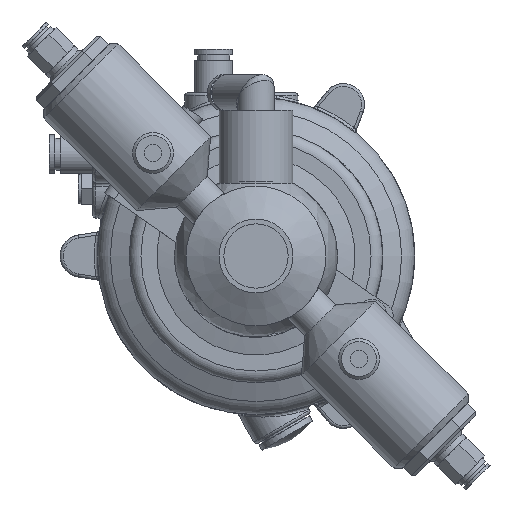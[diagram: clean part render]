
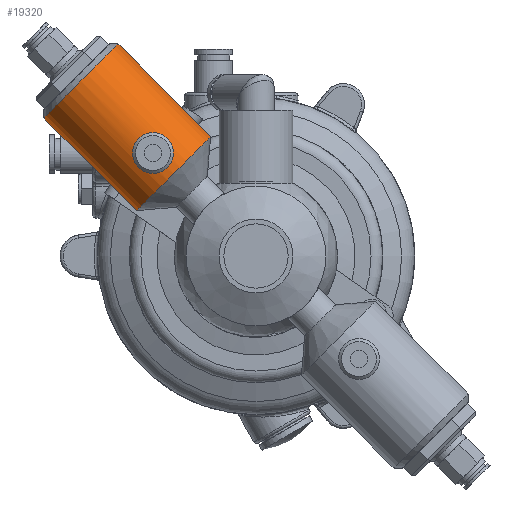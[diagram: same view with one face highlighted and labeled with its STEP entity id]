
A CAD part, front view. The second image highlights one B-rep face of the part: STEP entity #19320.
In plain terms, the highlighted cylindrical face has radius 18 mm (diameter 36 mm), a full revolution.
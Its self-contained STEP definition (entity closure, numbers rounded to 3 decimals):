
#44 = CARTESIAN_POINT ( 'NONE',  ( 39.402, -40.943, 37.346 ) ) ;
#335 = CARTESIAN_POINT ( 'NONE',  ( 31.086, -40.891, 33.904 ) ) ;
#639 = CARTESIAN_POINT ( 'NONE',  ( 37.607, -40.964, 39.263 ) ) ;
#955 = CARTESIAN_POINT ( 'NONE',  ( 35.943, -40.791, 39.826 ) ) ;
#2108 = CARTESIAN_POINT ( 'NONE',  ( 31.968, -41., 32.379 ) ) ;
#2381 = ORIENTED_EDGE ( 'NONE', *, *, #31214, .T. ) ;
#3013 = CARTESIAN_POINT ( 'NONE',  ( 60.104, -23., 60.104 ) ) ;
#4767 = CARTESIAN_POINT ( 'NONE',  ( 39.264, -40.465, 33.105 ) ) ;
#5079 = CARTESIAN_POINT ( 'NONE',  ( 33.109, -40.964, 31.445 ) ) ;
#5384 = CARTESIAN_POINT ( 'NONE',  ( 33.103, -40.465, 39.262 ) ) ;
#5540 = FACE_BOUND ( 'NONE', #57826, .T. ) ;
#5677 = CARTESIAN_POINT ( 'NONE',  ( 35.947, -40.641, 30.885 ) ) ;
#6795 = DIRECTION ( 'NONE',  ( 0.707, 0., -0.707 ) ) ;
#6831 = CARTESIAN_POINT ( 'NONE',  ( 37.61, -40.465, 31.45 ) ) ;
#9497 = CARTESIAN_POINT ( 'NONE',  ( 34.769, -40.642, 39.827 ) ) ;
#9804 = CARTESIAN_POINT ( 'NONE',  ( 39.404, -40.487, 33.369 ) ) ;
#10122 = CARTESIAN_POINT ( 'NONE',  ( 38.1, -40.436, 31.777 ) ) ;
#10421 = CARTESIAN_POINT ( 'NONE',  ( 33.368, -40.943, 31.307 ) ) ;
#11563 = CARTESIAN_POINT ( 'NONE',  ( 38.325, -41., 38.749 ) ) ;
#13589 = CARTESIAN_POINT ( 'NONE',  ( 30.855, -40.717, 35.355 ) ) ;
#14226 = CARTESIAN_POINT ( 'NONE',  ( 34.191, -40.572, 39.712 ) ) ;
#14537 = CARTESIAN_POINT ( 'NONE',  ( 37.351, -40.486, 31.311 ) ) ;
#14854 = CARTESIAN_POINT ( 'NONE',  ( 38.747, -41., 38.328 ) ) ;
#15158 = CARTESIAN_POINT ( 'NONE',  ( 34.772, -40.79, 30.884 ) ) ;
#15609 = FACE_OUTER_BOUND ( 'NONE', #61275, .T. ) ;
#16299 = CARTESIAN_POINT ( 'NONE',  ( 38.332, -40.428, 31.968 ) ) ;
#17180 = DIRECTION ( 'NONE',  ( -0.707, 0., -0.707 ) ) ;
#17477 = CARTESIAN_POINT ( 'NONE',  ( 72.832, -23., 47.376 ) ) ;
#18032 = EDGE_LOOP ( 'NONE', ( #55470 ) ) ;
#18961 = CARTESIAN_POINT ( 'NONE',  ( 31.084, -40.54, 36.802 ) ) ;
#19279 = CARTESIAN_POINT ( 'NONE',  ( 30.855, -40.754, 35.059 ) ) ;
#19320 = ADVANCED_FACE ( 'NONE', ( #29900, #15609, #5540 ), #24822, .T. ) ;
#19584 = CARTESIAN_POINT ( 'NONE',  ( 39.712, -40.572, 34.192 ) ) ;
#19885 = CARTESIAN_POINT ( 'NONE',  ( 39.826, -40.791, 35.945 ) ) ;
#21071 = CARTESIAN_POINT ( 'NONE',  ( 39.627, -40.891, 36.802 ) ) ;
#21770 = CARTESIAN_POINT ( 'NONE',  ( 15.556, -23., 41.012 ) ) ;
#21978 = DIRECTION ( 'NONE',  ( -0.707, 0., -0.707 ) ) ;
#22475 = CARTESIAN_POINT ( 'NONE',  ( 31.309, -40.487, 37.347 ) ) ;
#23745 = CARTESIAN_POINT ( 'NONE',  ( 30.884, -40.642, 35.943 ) ) ;
#24011 = B_SPLINE_CURVE_WITH_KNOTS ( 'NONE', 3,
 ( #13589, #33217, #23745, #62358, #18961, #22475, #41775, #32284, #51548, #27523, #33839, #5384, #34450, #43926, #14226, #9497, #29732, #24375, #955, #59673, #54888, #53720, #639, #57584, #11563, #14854, #30871, #24964, #44, #21071, #24668, #19885, #50146, #38280, #33528, #19584, #48390, #9804, #4767, #35630, #39193, #16299, #10122, #6831, #14537, #44246, #58491, #5677, #48683, #26112, #15158, #38595, #45423, #10421, #5079, #40352, #28811, #2108, #52793, #48074, #24061, #335, #43318, #34157, #19279, #48984 ),
 .UNSPECIFIED., .T., .F.,
 ( 4, 2, 2, 2, 2, 2, 2, 2, 2, 2, 2, 2, 2, 2, 2, 2, 2, 2, 2, 2, 2, 2, 2, 2, 2, 2, 2, 2, 2, 2, 2, 2, 4 ),
 ( 0., 0.001, 0.002, 0.003, 0.004, 0.004, 0.005, 0.006, 0.007, 0.008, 0.009, 0.01, 0.011, 0.011, 0.012, 0.013, 0.014, 0.015, 0.016, 0.017, 0.018, 0.019, 0.019, 0.02, 0.021, 0.022, 0.023, 0.024, 0.025, 0.026, 0.026, 0.027, 0.028 ),
 .UNSPECIFIED. ) ;
#24061 = CARTESIAN_POINT ( 'NONE',  ( 31.31, -40.944, 33.362 ) ) ;
#24375 = CARTESIAN_POINT ( 'NONE',  ( 35.646, -40.753, 39.855 ) ) ;
#24668 = CARTESIAN_POINT ( 'NONE',  ( 39.711, -40.86, 36.522 ) ) ;
#24822 = CYLINDRICAL_SURFACE ( 'NONE', #41494, 18. ) ;
#24964 = CARTESIAN_POINT ( 'NONE',  ( 39.26, -40.965, 37.611 ) ) ;
#25587 = AXIS2_PLACEMENT_3D ( 'NONE', #60548, #17180, #36492 ) ;
#26112 = CARTESIAN_POINT ( 'NONE',  ( 35.063, -40.754, 30.855 ) ) ;
#27523 = CARTESIAN_POINT ( 'NONE',  ( 32.381, -40.428, 38.745 ) ) ;
#27934 = CARTESIAN_POINT ( 'NONE',  ( 30.855, -40.717, 35.355 ) ) ;
#28811 = CARTESIAN_POINT ( 'NONE',  ( 32.384, -41., 31.963 ) ) ;
#29732 = CARTESIAN_POINT ( 'NONE',  ( 35.06, -40.679, 39.855 ) ) ;
#29900 = FACE_OUTER_BOUND ( 'NONE', #18032, .T. ) ;
#30871 = CARTESIAN_POINT ( 'NONE',  ( 38.933, -40.993, 38.1 ) ) ;
#31214 = EDGE_CURVE ( 'NONE', #60875, #60875, #48121, .T. ) ;
#32284 = CARTESIAN_POINT ( 'NONE',  ( 31.774, -40.436, 38.096 ) ) ;
#33217 = CARTESIAN_POINT ( 'NONE',  ( 30.855, -40.679, 35.651 ) ) ;
#33528 = CARTESIAN_POINT ( 'NONE',  ( 39.827, -40.642, 34.773 ) ) ;
#33839 = CARTESIAN_POINT ( 'NONE',  ( 32.609, -40.436, 38.932 ) ) ;
#34157 = CARTESIAN_POINT ( 'NONE',  ( 30.884, -40.791, 34.767 ) ) ;
#34450 = CARTESIAN_POINT ( 'NONE',  ( 33.365, -40.487, 39.402 ) ) ;
#34665 = CIRCLE ( 'NONE', #25587, 18. ) ;
#34918 = DIRECTION ( 'NONE',  ( -0.707, 0., -0.707 ) ) ;
#35630 = CARTESIAN_POINT ( 'NONE',  ( 38.936, -40.436, 32.613 ) ) ;
#35891 = EDGE_CURVE ( 'NONE', #52580, #52580, #24011, .T. ) ;
#36107 = ORIENTED_EDGE ( 'NONE', *, *, #35891, .T. ) ;
#36492 = DIRECTION ( 'NONE',  ( -0.707, 0., 0.707 ) ) ;
#38280 = CARTESIAN_POINT ( 'NONE',  ( 39.855, -40.68, 35.065 ) ) ;
#38595 = CARTESIAN_POINT ( 'NONE',  ( 34.197, -40.859, 30.997 ) ) ;
#39193 = CARTESIAN_POINT ( 'NONE',  ( 38.749, -40.429, 32.386 ) ) ;
#40352 = CARTESIAN_POINT ( 'NONE',  ( 32.616, -40.992, 31.773 ) ) ;
#41494 = AXIS2_PLACEMENT_3D ( 'NONE', #48849, #34918, #44096 ) ;
#41775 = CARTESIAN_POINT ( 'NONE',  ( 31.447, -40.465, 37.605 ) ) ;
#43318 = CARTESIAN_POINT ( 'NONE',  ( 30.999, -40.86, 34.19 ) ) ;
#43926 = CARTESIAN_POINT ( 'NONE',  ( 33.907, -40.54, 39.626 ) ) ;
#44096 = DIRECTION ( 'NONE',  ( -0.707, 0., 0.707 ) ) ;
#44246 = CARTESIAN_POINT ( 'NONE',  ( 36.803, -40.54, 31.084 ) ) ;
#45423 = CARTESIAN_POINT ( 'NONE',  ( 33.911, -40.891, 31.083 ) ) ;
#46088 = AXIS2_PLACEMENT_3D ( 'NONE', #3013, #21978, #6795 ) ;
#46143 = VERTEX_POINT ( 'NONE', #21770 ) ;
#48074 = CARTESIAN_POINT ( 'NONE',  ( 31.449, -40.964, 33.102 ) ) ;
#48121 = CIRCLE ( 'NONE', #46088, 18. ) ;
#48390 = CARTESIAN_POINT ( 'NONE',  ( 39.627, -40.541, 33.911 ) ) ;
#48683 = CARTESIAN_POINT ( 'NONE',  ( 35.651, -40.679, 30.855 ) ) ;
#48849 = CARTESIAN_POINT ( 'NONE',  ( 12.021, -23., 12.021 ) ) ;
#48984 = CARTESIAN_POINT ( 'NONE',  ( 30.855, -40.717, 35.355 ) ) ;
#50146 = CARTESIAN_POINT ( 'NONE',  ( 39.855, -40.754, 35.649 ) ) ;
#51548 = CARTESIAN_POINT ( 'NONE',  ( 31.965, -40.428, 38.329 ) ) ;
#52580 = VERTEX_POINT ( 'NONE', #27934 ) ;
#52793 = CARTESIAN_POINT ( 'NONE',  ( 31.779, -40.993, 32.608 ) ) ;
#53720 = CARTESIAN_POINT ( 'NONE',  ( 37.344, -40.943, 39.403 ) ) ;
#54888 = CARTESIAN_POINT ( 'NONE',  ( 36.797, -40.89, 39.628 ) ) ;
#55470 = ORIENTED_EDGE ( 'NONE', *, *, #58890, .F. ) ;
#57584 = CARTESIAN_POINT ( 'NONE',  ( 38.096, -40.992, 38.937 ) ) ;
#57826 = EDGE_LOOP ( 'NONE', ( #36107 ) ) ;
#58491 = CARTESIAN_POINT ( 'NONE',  ( 36.52, -40.572, 30.999 ) ) ;
#58890 = EDGE_CURVE ( 'NONE', #46143, #46143, #34665, .T. ) ;
#59673 = CARTESIAN_POINT ( 'NONE',  ( 36.517, -40.859, 39.713 ) ) ;
#60548 = CARTESIAN_POINT ( 'NONE',  ( 28.284, -23., 28.284 ) ) ;
#60875 = VERTEX_POINT ( 'NONE', #17477 ) ;
#61275 = EDGE_LOOP ( 'NONE', ( #2381 ) ) ;
#62358 = CARTESIAN_POINT ( 'NONE',  ( 30.998, -40.573, 36.516 ) ) ;
